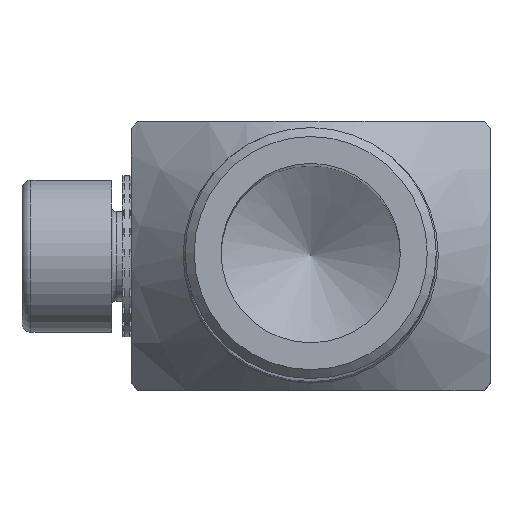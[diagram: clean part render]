
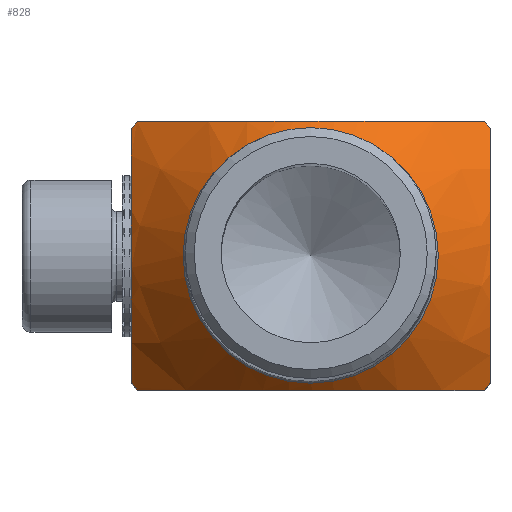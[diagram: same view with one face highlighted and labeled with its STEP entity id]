
A CAD part, top view. The second image highlights one B-rep face of the part: STEP entity #828.
In plain terms, the highlighted conical face has half-angle 45 degrees and reference radius 11.181 mm.
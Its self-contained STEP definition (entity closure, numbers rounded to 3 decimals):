
#828=ADVANCED_FACE('',(#1568,#1569),#1570,.T.);
#1568=FACE_BOUND('',#2312,.T.);
#1569=FACE_OUTER_BOUND('',#2313,.T.);
#1570=CONICAL_SURFACE('',#2314,11.181,0.785);
#2312=EDGE_LOOP('',(#4462));
#2313=EDGE_LOOP('',(#4463,#4464,#4465,#4466,#4467,#4468,#4469,#4470));
#2314=AXIS2_PLACEMENT_3D('',#4471,#4472,#4473);
#4462=ORIENTED_EDGE('',*,*,#5486,.T.);
#4463=ORIENTED_EDGE('',*,*,#5487,.F.);
#4464=ORIENTED_EDGE('',*,*,#5488,.F.);
#4465=ORIENTED_EDGE('',*,*,#5489,.F.);
#4466=ORIENTED_EDGE('',*,*,#5490,.F.);
#4467=ORIENTED_EDGE('',*,*,#5491,.F.);
#4468=ORIENTED_EDGE('',*,*,#5477,.F.);
#4469=ORIENTED_EDGE('',*,*,#5492,.F.);
#4470=ORIENTED_EDGE('',*,*,#5493,.F.);
#4471=CARTESIAN_POINT('',(0.,20.819,0.));
#4472=DIRECTION('',(0.,-1.0,0.));
#4473=DIRECTION('',(0.0,0.,-1.0));
#5477=EDGE_CURVE('',#6779,#6781,#6782,.T.);
#5486=EDGE_CURVE('',#6797,#6797,#6798,.T.);
#5487=EDGE_CURVE('',#6799,#6800,#6801,.T.);
#5488=EDGE_CURVE('',#6802,#6799,#6803,.T.);
#5489=EDGE_CURVE('',#6804,#6802,#6805,.T.);
#5490=EDGE_CURVE('',#6806,#6804,#6807,.T.);
#5491=EDGE_CURVE('',#6781,#6806,#6808,.T.);
#5492=EDGE_CURVE('',#6809,#6779,#6810,.T.);
#5493=EDGE_CURVE('',#6800,#6809,#6811,.T.);
#6779=VERTEX_POINT('',#8531);
#6781=VERTEX_POINT('',#8534);
#6782=B_SPLINE_CURVE_WITH_KNOTS('',3,(#8535,#8536,#8537,#8538,#8539,#8540,#8541,#8542,#8543,#8544,#8545,#8546,#8547,#8548,#8549,#8550,#8551,#8552,#8553,#8554,#8555,#8556,#8557,#8558,#8559,#8560),.UNSPECIFIED.,.F.,.F.,(4,2,2,2,2,2,2,2,2,2,2,2,4),(0.024,0.027,0.029,0.032,0.033,0.035,0.036,0.036,0.038,0.039,0.04,0.043,0.046),.UNSPECIFIED.);
#6797=VERTEX_POINT('',#8583);
#6798=CIRCLE('',#8584,7.117);
#6799=VERTEX_POINT('',#8585);
#6800=VERTEX_POINT('',#8586);
#6801=CIRCLE('',#8587,12.25);
#6802=VERTEX_POINT('',#8588);
#6803=B_SPLINE_CURVE_WITH_KNOTS('',3,(#8589,#8590,#8591,#8592,#8593,#8594,#8595,#8596,#8597,#8598,#8599,#8600,#8601,#8602,#8603,#8604,#8605,#8606,#8607,#8608,#8609,#8610,#8611,#8612,#8613,#8614),.UNSPECIFIED.,.F.,.F.,(4,2,2,2,2,2,2,2,2,2,2,2,4),(0.024,0.027,0.029,0.032,0.033,0.035,0.036,0.036,0.038,0.039,0.04,0.043,0.046),.UNSPECIFIED.);
#6804=VERTEX_POINT('',#8615);
#6805=CIRCLE('',#8616,12.25);
#6806=VERTEX_POINT('',#8617);
#6807=B_SPLINE_CURVE_WITH_KNOTS('',3,(#8618,#8619,#8620,#8621,#8622,#8623,#8624,#8625,#8626,#8627,#8628,#8629,#8630,#8631,#8632,#8633,#8634,#8635,#8636,#8637,#8638,#8639),.UNSPECIFIED.,.F.,.F.,(4,2,2,2,2,2,2,2,2,2,4),(0.02,0.024,0.025,0.026,0.028,0.029,0.03,0.032,0.033,0.034,0.035),.UNSPECIFIED.);
#6808=CIRCLE('',#8640,12.25);
#6809=VERTEX_POINT('',#8641);
#6810=CIRCLE('',#8642,12.25);
#6811=B_SPLINE_CURVE_WITH_KNOTS('',3,(#8643,#8644,#8645,#8646,#8647,#8648,#8649,#8650,#8651,#8652,#8653,#8654,#8655,#8656,#8657,#8658,#8659,#8660,#8661,#8662,#8663,#8664),.UNSPECIFIED.,.F.,.F.,(4,2,2,2,2,2,2,2,2,2,4),(0.02,0.024,0.025,0.026,0.028,0.029,0.03,0.032,0.033,0.034,0.035),.UNSPECIFIED.);
#8531=CARTESIAN_POINT('',(9.686,19.75,7.5));
#8534=CARTESIAN_POINT('',(-9.686,19.75,7.5));
#8535=CARTESIAN_POINT('',(9.686,19.75,7.5));
#8536=CARTESIAN_POINT('',(8.969,20.317,7.5));
#8537=CARTESIAN_POINT('',(8.239,20.871,7.5));
#8538=CARTESIAN_POINT('',(6.749,21.925,7.5));
#8539=CARTESIAN_POINT('',(5.988,22.424,7.5));
#8540=CARTESIAN_POINT('',(4.413,23.322,7.5));
#8541=CARTESIAN_POINT('',(3.598,23.722,7.5));
#8542=CARTESIAN_POINT('',(2.293,24.168,7.5));
#8543=CARTESIAN_POINT('',(1.84,24.29,7.5));
#8544=CARTESIAN_POINT('',(0.936,24.455,7.5));
#8545=CARTESIAN_POINT('',(0.481,24.499,7.5));
#8546=CARTESIAN_POINT('',(-0.206,24.501,7.5));
#8547=CARTESIAN_POINT('',(-0.436,24.491,7.5));
#8548=CARTESIAN_POINT('',(-0.898,24.45,7.5));
#8549=CARTESIAN_POINT('',(-1.13,24.419,7.5));
#8550=CARTESIAN_POINT('',(-1.814,24.297,7.5));
#8551=CARTESIAN_POINT('',(-2.258,24.178,7.5));
#8552=CARTESIAN_POINT('',(-3.13,23.883,7.5));
#8553=CARTESIAN_POINT('',(-3.559,23.707,7.5));
#8554=CARTESIAN_POINT('',(-4.398,23.314,7.5));
#8555=CARTESIAN_POINT('',(-4.805,23.099,7.5));
#8556=CARTESIAN_POINT('',(-5.998,22.419,7.5));
#8557=CARTESIAN_POINT('',(-6.759,21.917,7.5));
#8558=CARTESIAN_POINT('',(-8.246,20.866,7.5));
#8559=CARTESIAN_POINT('',(-8.971,20.315,7.5));
#8560=CARTESIAN_POINT('',(-9.686,19.75,7.5));
#8583=CARTESIAN_POINT('',(0.,24.883,-7.117));
#8584=AXIS2_PLACEMENT_3D('',#9810,#9811,#9812);
#8585=CARTESIAN_POINT('',(9.686,19.75,-7.5));
#8586=CARTESIAN_POINT('',(10.0,19.75,-7.075));
#8587=AXIS2_PLACEMENT_3D('',#9813,#9814,#9815);
#8588=CARTESIAN_POINT('',(-9.686,19.75,-7.5));
#8589=CARTESIAN_POINT('',(-9.686,19.75,-7.5));
#8590=CARTESIAN_POINT('',(-8.969,20.317,-7.5));
#8591=CARTESIAN_POINT('',(-8.239,20.871,-7.5));
#8592=CARTESIAN_POINT('',(-6.749,21.925,-7.5));
#8593=CARTESIAN_POINT('',(-5.988,22.424,-7.5));
#8594=CARTESIAN_POINT('',(-4.413,23.322,-7.5));
#8595=CARTESIAN_POINT('',(-3.598,23.722,-7.5));
#8596=CARTESIAN_POINT('',(-2.293,24.168,-7.5));
#8597=CARTESIAN_POINT('',(-1.84,24.29,-7.5));
#8598=CARTESIAN_POINT('',(-0.936,24.455,-7.5));
#8599=CARTESIAN_POINT('',(-0.481,24.499,-7.5));
#8600=CARTESIAN_POINT('',(0.206,24.501,-7.5));
#8601=CARTESIAN_POINT('',(0.436,24.491,-7.5));
#8602=CARTESIAN_POINT('',(0.898,24.45,-7.5));
#8603=CARTESIAN_POINT('',(1.13,24.419,-7.5));
#8604=CARTESIAN_POINT('',(1.814,24.297,-7.5));
#8605=CARTESIAN_POINT('',(2.258,24.178,-7.5));
#8606=CARTESIAN_POINT('',(3.13,23.883,-7.5));
#8607=CARTESIAN_POINT('',(3.559,23.707,-7.5));
#8608=CARTESIAN_POINT('',(4.398,23.314,-7.5));
#8609=CARTESIAN_POINT('',(4.805,23.099,-7.5));
#8610=CARTESIAN_POINT('',(5.998,22.419,-7.5));
#8611=CARTESIAN_POINT('',(6.759,21.917,-7.5));
#8612=CARTESIAN_POINT('',(8.246,20.866,-7.5));
#8613=CARTESIAN_POINT('',(8.971,20.315,-7.5));
#8614=CARTESIAN_POINT('',(9.686,19.75,-7.5));
#8615=CARTESIAN_POINT('',(-10.0,19.75,-7.075));
#8616=AXIS2_PLACEMENT_3D('',#9816,#9817,#9818);
#8617=CARTESIAN_POINT('',(-10.0,19.75,7.075));
#8618=CARTESIAN_POINT('',(-10.0,19.75,7.075));
#8619=CARTESIAN_POINT('',(-10.0,20.379,5.987));
#8620=CARTESIAN_POINT('',(-10.0,20.935,4.865));
#8621=CARTESIAN_POINT('',(-10.0,21.448,3.381));
#8622=CARTESIAN_POINT('',(-10.0,21.541,3.079));
#8623=CARTESIAN_POINT('',(-10.0,21.703,2.471));
#8624=CARTESIAN_POINT('',(-10.0,21.773,2.166));
#8625=CARTESIAN_POINT('',(-10.0,21.941,1.244));
#8626=CARTESIAN_POINT('',(-10.0,22.,0.623));
#8627=CARTESIAN_POINT('',(-10.0,22.,-0.319));
#8628=CARTESIAN_POINT('',(-10.0,21.985,-0.636));
#8629=CARTESIAN_POINT('',(-10.0,21.925,-1.263));
#8630=CARTESIAN_POINT('',(-10.0,21.882,-1.573));
#8631=CARTESIAN_POINT('',(-10.0,21.711,-2.494));
#8632=CARTESIAN_POINT('',(-10.0,21.546,-3.097));
#8633=CARTESIAN_POINT('',(-10.0,21.237,-3.989));
#8634=CARTESIAN_POINT('',(-10.0,21.124,-4.284));
#8635=CARTESIAN_POINT('',(-10.0,20.883,-4.863));
#8636=CARTESIAN_POINT('',(-10.0,20.756,-5.148));
#8637=CARTESIAN_POINT('',(-10.0,20.353,-5.991));
#8638=CARTESIAN_POINT('',(-10.0,20.06,-6.538));
#8639=CARTESIAN_POINT('',(-10.0,19.75,-7.075));
#8640=AXIS2_PLACEMENT_3D('',#9819,#9820,#9821);
#8641=CARTESIAN_POINT('',(10.0,19.75,7.075));
#8642=AXIS2_PLACEMENT_3D('',#9822,#9823,#9824);
#8643=CARTESIAN_POINT('',(10.0,19.75,-7.075));
#8644=CARTESIAN_POINT('',(10.0,20.379,-5.987));
#8645=CARTESIAN_POINT('',(10.0,20.935,-4.865));
#8646=CARTESIAN_POINT('',(10.0,21.448,-3.381));
#8647=CARTESIAN_POINT('',(10.0,21.541,-3.079));
#8648=CARTESIAN_POINT('',(10.0,21.703,-2.471));
#8649=CARTESIAN_POINT('',(10.0,21.773,-2.166));
#8650=CARTESIAN_POINT('',(10.0,21.941,-1.244));
#8651=CARTESIAN_POINT('',(10.0,22.,-0.623));
#8652=CARTESIAN_POINT('',(10.0,22.,0.319));
#8653=CARTESIAN_POINT('',(10.0,21.985,0.636));
#8654=CARTESIAN_POINT('',(10.0,21.925,1.263));
#8655=CARTESIAN_POINT('',(10.0,21.882,1.573));
#8656=CARTESIAN_POINT('',(10.0,21.711,2.494));
#8657=CARTESIAN_POINT('',(10.0,21.546,3.097));
#8658=CARTESIAN_POINT('',(10.0,21.237,3.989));
#8659=CARTESIAN_POINT('',(10.0,21.124,4.284));
#8660=CARTESIAN_POINT('',(10.0,20.883,4.863));
#8661=CARTESIAN_POINT('',(10.0,20.756,5.148));
#8662=CARTESIAN_POINT('',(10.0,20.353,5.991));
#8663=CARTESIAN_POINT('',(10.0,20.06,6.538));
#8664=CARTESIAN_POINT('',(10.0,19.75,7.075));
#9810=CARTESIAN_POINT('',(0.,24.883,0.));
#9811=DIRECTION('',(0.,-1.0,0.));
#9812=DIRECTION('',(0.0,0.,-1.0));
#9813=CARTESIAN_POINT('',(0.,19.75,0.));
#9814=DIRECTION('',(0.,-1.0,0.));
#9815=DIRECTION('',(0.0,0.,-1.0));
#9816=CARTESIAN_POINT('',(0.,19.75,0.));
#9817=DIRECTION('',(0.,-1.0,0.));
#9818=DIRECTION('',(0.0,0.,-1.0));
#9819=CARTESIAN_POINT('',(0.,19.75,0.));
#9820=DIRECTION('',(0.,-1.0,0.));
#9821=DIRECTION('',(0.0,0.,-1.0));
#9822=CARTESIAN_POINT('',(0.,19.75,0.));
#9823=DIRECTION('',(0.,-1.0,0.));
#9824=DIRECTION('',(0.0,0.,-1.0));
